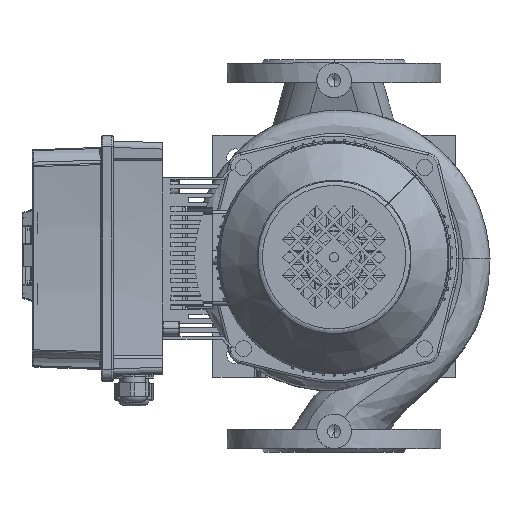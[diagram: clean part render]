
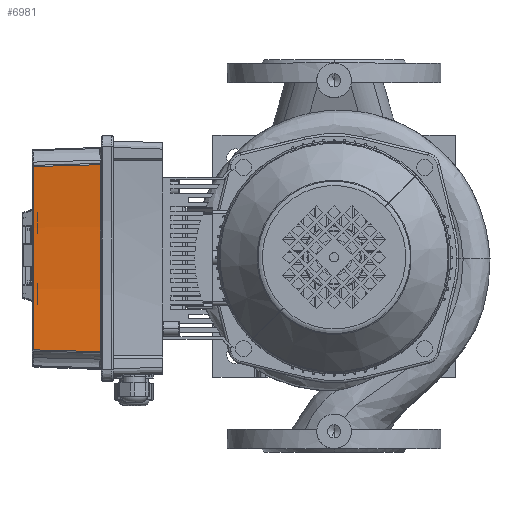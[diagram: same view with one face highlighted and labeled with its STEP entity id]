
A CAD part, top view. The second image highlights one B-rep face of the part: STEP entity #6981.
In plain terms, the highlighted conical face has half-angle 2 degrees and reference radius 845 mm.
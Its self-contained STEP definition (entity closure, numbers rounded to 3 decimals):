
#6981=ADVANCED_FACE('',(#14859),#14860,.F.);
#14859=FACE_OUTER_BOUND('',#33668,.T.);
#14860=CONICAL_SURFACE('',#33669,845.0,0.035);
#33668=EDGE_LOOP('',(#56501,#56502,#56503,#56504));
#33669=AXIS2_PLACEMENT_3D('',#56505,#56506,#56507);
#56501=ORIENTED_EDGE('',*,*,#93318,.F.);
#56502=ORIENTED_EDGE('',*,*,#93373,.F.);
#56503=ORIENTED_EDGE('',*,*,#93334,.F.);
#56504=ORIENTED_EDGE('',*,*,#93362,.F.);
#56505=CARTESIAN_POINT('',(-110.0,1132.065,60.0));
#56506=DIRECTION('',(0.,-0.0,-1.0));
#56507=DIRECTION('',(1.0,0.0,0.));
#93318=EDGE_CURVE('',#121315,#121321,#121322,.T.);
#93334=EDGE_CURVE('',#121342,#121334,#121344,.T.);
#93362=EDGE_CURVE('',#121321,#121342,#121374,.T.);
#93373=EDGE_CURVE('',#121334,#121315,#121386,.T.);
#121315=VERTEX_POINT('',#145537);
#121321=VERTEX_POINT('',#145579);
#121322=B_SPLINE_CURVE_WITH_KNOTS('',3,(#145580,#145581,#145582,#145583,#145584,#145585,#145586,#145587,#145588,#145589,#145590,#145591,#145592,#145593,#145594,#145595,#145596,#145597,#145598,#145599,#145600,#145601,#145602,#145603,#145604),.UNSPECIFIED.,.F.,.F.,(4,3,3,3,3,3,3,3,4),(-60.14,-51.629,-41.43,-35.057,-31.073,-27.089,-20.715,-10.517,-2.006),.UNSPECIFIED.);
#121334=VERTEX_POINT('',#145693);
#121342=VERTEX_POINT('',#145754);
#121344=B_SPLINE_CURVE_WITH_KNOTS('',3,(#145769,#145770,#145771,#145772,#145773,#145774,#145775,#145776,#145777,#145778,#145779,#145780,#145781,#145782,#145783,#145784,#145785,#145786,#145787,#145788,#145789,#145790,#145791,#145792,#145793),.UNSPECIFIED.,.F.,.F.,(4,3,3,3,3,3,3,3,4),(2.006,10.517,20.716,27.09,31.073,35.057,41.431,51.63,60.14),.UNSPECIFIED.);
#121374=CIRCLE('',#145984,847.062);
#121386=CIRCLE('',#146012,845.034);
#145537=CARTESIAN_POINT('',(-190.987,290.921,59.035));
#145579=CARTESIAN_POINT('',(-189.365,288.73,0.965));
#145580=CARTESIAN_POINT('',(-190.987,290.921,59.035));
#145581=CARTESIAN_POINT('',(-190.902,290.814,56.201));
#145582=CARTESIAN_POINT('',(-190.819,290.706,53.368));
#145583=CARTESIAN_POINT('',(-190.736,290.599,50.534));
#145584=CARTESIAN_POINT('',(-190.637,290.47,47.138));
#145585=CARTESIAN_POINT('',(-190.539,290.342,43.743));
#145586=CARTESIAN_POINT('',(-190.442,290.214,40.347));
#145587=CARTESIAN_POINT('',(-190.381,290.133,38.225));
#145588=CARTESIAN_POINT('',(-190.321,290.053,36.103));
#145589=CARTESIAN_POINT('',(-190.261,289.973,33.98));
#145590=CARTESIAN_POINT('',(-190.224,289.923,32.654));
#145591=CARTESIAN_POINT('',(-190.187,289.873,31.327));
#145592=CARTESIAN_POINT('',(-190.15,289.823,30.001));
#145593=CARTESIAN_POINT('',(-190.113,289.773,28.675));
#145594=CARTESIAN_POINT('',(-190.076,289.723,27.348));
#145595=CARTESIAN_POINT('',(-190.04,289.673,26.022));
#145596=CARTESIAN_POINT('',(-189.981,289.593,23.899));
#145597=CARTESIAN_POINT('',(-189.923,289.513,21.777));
#145598=CARTESIAN_POINT('',(-189.865,289.433,19.655));
#145599=CARTESIAN_POINT('',(-189.772,289.305,16.259));
#145600=CARTESIAN_POINT('',(-189.681,289.177,12.863));
#145601=CARTESIAN_POINT('',(-189.59,289.049,9.467));
#145602=CARTESIAN_POINT('',(-189.515,288.943,6.633));
#145603=CARTESIAN_POINT('',(-189.44,288.836,3.799));
#145604=CARTESIAN_POINT('',(-189.365,288.73,0.965));
#145693=CARTESIAN_POINT('',(-29.013,290.921,59.035));
#145754=CARTESIAN_POINT('',(-30.635,288.73,0.965));
#145769=CARTESIAN_POINT('',(-30.635,288.73,0.965));
#145770=CARTESIAN_POINT('',(-30.56,288.836,3.799));
#145771=CARTESIAN_POINT('',(-30.485,288.943,6.633));
#145772=CARTESIAN_POINT('',(-30.41,289.049,9.467));
#145773=CARTESIAN_POINT('',(-30.319,289.177,12.863));
#145774=CARTESIAN_POINT('',(-30.228,289.305,16.259));
#145775=CARTESIAN_POINT('',(-30.135,289.433,19.654));
#145776=CARTESIAN_POINT('',(-30.077,289.513,21.777));
#145777=CARTESIAN_POINT('',(-30.019,289.593,23.899));
#145778=CARTESIAN_POINT('',(-29.96,289.673,26.022));
#145779=CARTESIAN_POINT('',(-29.924,289.723,27.348));
#145780=CARTESIAN_POINT('',(-29.887,289.773,28.674));
#145781=CARTESIAN_POINT('',(-29.85,289.823,30.001));
#145782=CARTESIAN_POINT('',(-29.813,289.873,31.327));
#145783=CARTESIAN_POINT('',(-29.776,289.923,32.654));
#145784=CARTESIAN_POINT('',(-29.739,289.973,33.98));
#145785=CARTESIAN_POINT('',(-29.679,290.053,36.103));
#145786=CARTESIAN_POINT('',(-29.619,290.133,38.225));
#145787=CARTESIAN_POINT('',(-29.558,290.214,40.347));
#145788=CARTESIAN_POINT('',(-29.461,290.342,43.743));
#145789=CARTESIAN_POINT('',(-29.363,290.47,47.139));
#145790=CARTESIAN_POINT('',(-29.264,290.599,50.534));
#145791=CARTESIAN_POINT('',(-29.181,290.706,53.368));
#145792=CARTESIAN_POINT('',(-29.098,290.814,56.201));
#145793=CARTESIAN_POINT('',(-29.013,290.921,59.035));
#145984=AXIS2_PLACEMENT_3D('',#178180,#178181,#178182);
#146012=AXIS2_PLACEMENT_3D('',#178192,#178193,#178194);
#178180=CARTESIAN_POINT('',(-110.0,1132.065,0.965));
#178181=DIRECTION('',(0.,0.,1.0));
#178182=DIRECTION('',(0.0,-1.0,0.));
#178192=CARTESIAN_POINT('',(-110.0,1132.065,59.035));
#178193=DIRECTION('',(-0.0,-0.0,-1.0));
#178194=DIRECTION('',(0.0,-1.0,0.0));
